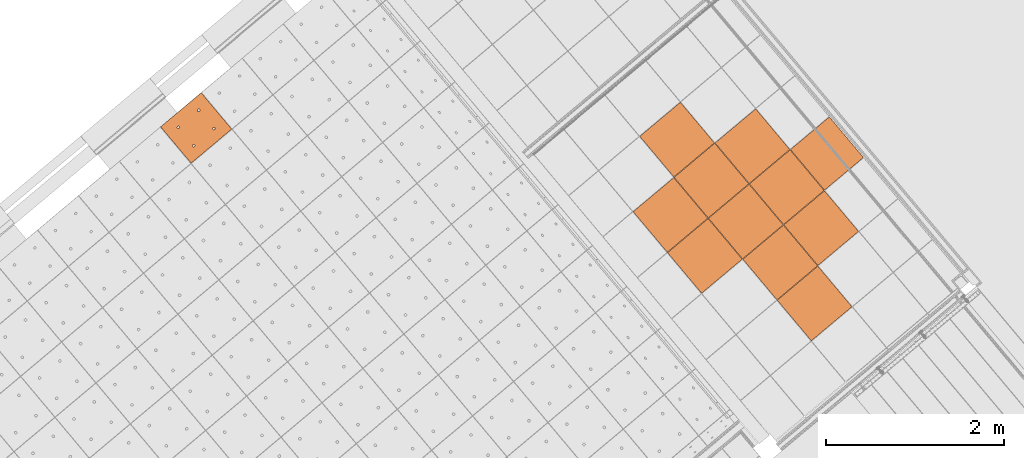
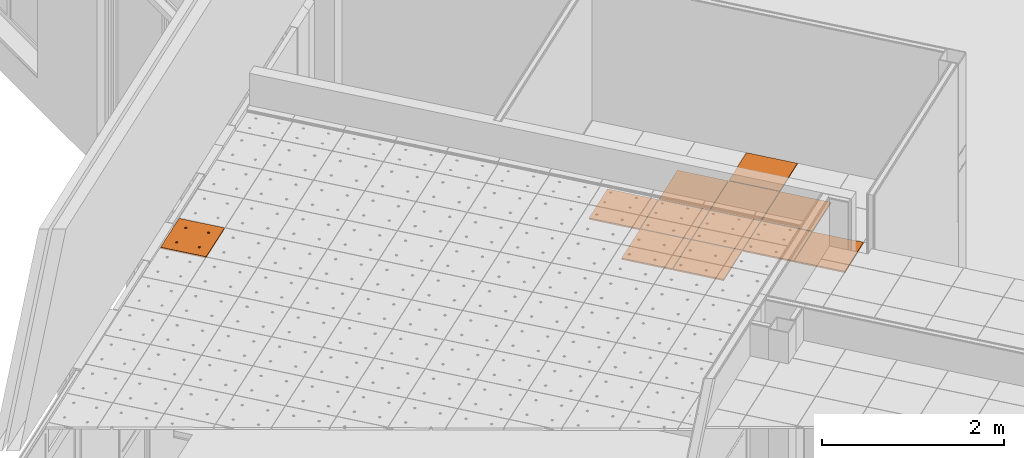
# One storey, part 175 of 338: 12 proxies, 2 elements without a shape of their own.
"""IFC2X3 building model written with IfcOpenShell, lengths in millimetres."""

from ifc_helpers import new_model, entity, si_unit, converted_unit, derived_unit, money_unit, direction, frame, origin_with_axes, place, context, subcontext, project, spatial, faceted_brep, source, transform, mapped, material, type_object, type_shapes, element, aggregate, save


model = new_model("IFC2X3")

# Units and contexts
model_context = context("Model", 3, precision=0.01, world=origin_with_axes(), true_north=direction((0.0, 1.0)))
plan_context = context("Plan", 3, precision=0.01, world=origin_with_axes(), true_north=direction((0.0, 1.0)))
body_context = subcontext(model_context, "Body", "Model", "MODEL_VIEW")
ifc_project = project(units=[si_unit("LENGTHUNIT", "METRE", prefix="MILLI"), si_unit("AREAUNIT", "SQUARE_METRE"), si_unit("VOLUMEUNIT", "CUBIC_METRE"), converted_unit("PLANEANGLEUNIT", "DEGREE", entity("IfcPlaneAngleMeasure", 0.0174532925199), si_unit("PLANEANGLEUNIT", "RADIAN"), dimensions=[0, 0, 0, 0, 0, 0, 0]), money_unit("EUR"), converted_unit("TIMEUNIT", "Year", entity("IfcTimeMeasure", 31556926.0), si_unit("TIMEUNIT", "SECOND"), dimensions=[0, 0, 1, 0, 0, 0, 0]), si_unit("MASSUNIT", "GRAM", prefix="KILO"), si_unit("THERMODYNAMICTEMPERATUREUNIT", "DEGREE_CELSIUS"), si_unit("LUMINOUSINTENSITYUNIT", "LUMEN"), si_unit("ENERGYUNIT", "JOULE", prefix="MEGA"), derived_unit("THERMALCONDUCTANCEUNIT", [(si_unit("POWERUNIT", "WATT"), 1), (si_unit("LENGTHUNIT", "METRE"), -1), (si_unit("THERMODYNAMICTEMPERATUREUNIT", "KELVIN"), -1)]), derived_unit("SPECIFICHEATCAPACITYUNIT", [(si_unit("ENERGYUNIT", "JOULE"), 1), (si_unit("MASSUNIT", "GRAM", prefix="KILO"), -1), (si_unit("THERMODYNAMICTEMPERATUREUNIT", "KELVIN"), -1)]), derived_unit("MASSDENSITYUNIT", [(si_unit("MASSUNIT", "GRAM", prefix="KILO"), 1), (si_unit("VOLUMEUNIT", "CUBIC_METRE"), -1)])], contexts=[model_context, plan_context])

# Site, building, storey
site_placement = place(None, origin_with_axes())
site = spatial("IfcSite", under=ifc_project, at=site_placement, Name="Fortuinstraat Woensdrecht", CompositionType="ELEMENT")
building_placement = place(site_placement, origin_with_axes())
building = spatial("IfcBuilding", under=site, at=building_placement, Name="IKC Fortuna", CompositionType="ELEMENT")
storey_placement = place(building_placement, origin_with_axes())
storey = spatial("IfcBuildingStorey", under=building, at=storey_placement, Name="00 begane grond", CompositionType="ELEMENT", Elevation=0.0)

# Covering, proxies
covering_type = type_object("IfcCoveringType", Name="Curtain Wall Type", PredefinedType="CEILING")
covering_1_placement = place(storey_placement, frame((15581.2998521, 5435.5548951, 3210.0), z_axis=(0.0, 0.0, 1.0), x_axis=(1.0, 0.0, 0.0)))
covering_1 = element("IfcCovering", 1, at=covering_1_placement, inside=storey, type_object=covering_type, Name="45_Plafondafwerking_P02 v", PredefinedType="CEILING")
ifc_material = material(Name="Gipsplaat")
building_element_proxy_type_1 = type_object("IfcBuildingElementProxyType", Name="Distinct Panel 600 x 600 x 20", PredefinedType="NOTDEFINED")
shared_shape_1 = source(origin_with_axes(), body_context, "Body", "Brep", [
    faceted_brep([(-597.499994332, 2.50000201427, -10.0), (-597.499994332, 2.50000201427, 10.0), (-597.499997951, 597.499994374, 10.0), (-597.499997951, 597.499994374, -10.0), (-2.50001005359, 2.49999600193, -10.0), (-2.50001005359, 2.49999600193, 10.0), (-2.49999596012, 597.499989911, 10.0), (-2.49999596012, 597.499989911, -10.0)], [[[0, 1, 2, 3]], [[4, 5, 1, 0]], [[1, 5, 6, 2]], [[3, 2, 6, 7]], [[0, 3, 7, 4]], [[7, 6, 5, 4]]]),
])
proxy_1_placement = place(covering_1_placement, frame((-299.144011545, 2098.72171471, 0.0), z_axis=(0.0, 0.0, 1.0), x_axis=(1.0, 0.0, 0.0)))
proxy_1 = element("IfcBuildingElementProxy", 2, at=proxy_1_placement, type_object=building_element_proxy_type_1, material=ifc_material, Name="__Panel-D", context=body_context, shape_type="MappedRepresentation", body=[
    mapped(shared_shape_1, transform((-422.649621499, 36.9769853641, 0.0), x_axis=(-0.766044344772, -0.642787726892, 0.0), y_axis=(0.642787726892, -0.766044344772, 0.0), z_axis=(0.0, 0.0, 1.0))),
])
proxy_2_placement = place(covering_1_placement, frame((472.201260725, 1179.46850099, 0.0), z_axis=(0.0, 0.0, 1.0), x_axis=(1.0, 0.0, 0.0)))
proxy_2 = element("IfcBuildingElementProxy", 3, at=proxy_2_placement, type_object=building_element_proxy_type_1, material=ifc_material, Name="__Panel-D", context=body_context, shape_type="MappedRepresentation", body=[
    mapped(shared_shape_1, transform((-422.649621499, 36.9769853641, 0.0), x_axis=(-0.766044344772, -0.642787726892, 0.0), y_axis=(0.642787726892, -0.766044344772, 0.0), z_axis=(0.0, 0.0, 1.0))),
])
proxy_3_placement = place(covering_1_placement, frame((1317.50050372, 1105.51453026, 0.0), z_axis=(0.0, 0.0, 1.0), x_axis=(1.0, 0.0, 0.0)))
proxy_3 = element("IfcBuildingElementProxy", 4, at=proxy_3_placement, type_object=building_element_proxy_type_1, material=ifc_material, Name="__Panel-D", context=body_context, shape_type="MappedRepresentation", body=[
    mapped(shared_shape_1, transform((-422.649621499, 36.9769853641, 0.0), x_axis=(-0.766044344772, -0.642787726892, 0.0), y_axis=(0.642787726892, -0.766044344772, 0.0), z_axis=(0.0, 0.0, 1.0))),
])
proxy_4_placement = place(covering_1_placement, frame((931.827867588, 1565.14113712, 0.0), z_axis=(0.0, 0.0, 1.0), x_axis=(1.0, 0.0, 0.0)))
proxy_4 = element("IfcBuildingElementProxy", 5, at=proxy_4_placement, type_object=building_element_proxy_type_1, material=ifc_material, Name="__Panel-D", context=body_context, shape_type="MappedRepresentation", body=[
    mapped(shared_shape_1, transform((-422.649621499, 36.9769853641, 0.0), x_axis=(-0.766044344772, -0.642787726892, 0.0), y_axis=(0.642787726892, -0.766044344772, 0.0), z_axis=(0.0, 0.0, 1.0))),
])
proxy_5_placement = place(covering_1_placement, frame((-373.097982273, 1253.42247171, 0.0), z_axis=(0.0, 0.0, 1.0), x_axis=(1.0, 0.0, 0.0)))
proxy_5 = element("IfcBuildingElementProxy", 6, at=proxy_5_placement, type_object=building_element_proxy_type_1, material=ifc_material, Name="__Panel-D", context=body_context, shape_type="MappedRepresentation", body=[
    mapped(shared_shape_1, transform((-422.649621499, 36.9769853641, 0.0), x_axis=(-0.766044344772, -0.642787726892, 0.0), y_axis=(0.642787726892, -0.766044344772, 0.0), z_axis=(0.0, 0.0, 1.0))),
])
proxy_6_placement = place(covering_1_placement, frame((12.5746538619, 793.795864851, 0.0), z_axis=(0.0, 0.0, 1.0), x_axis=(1.0, 0.0, 0.0)))
proxy_6 = element("IfcBuildingElementProxy", 7, at=proxy_6_placement, type_object=building_element_proxy_type_1, material=ifc_material, Name="__Panel-D", context=body_context, shape_type="MappedRepresentation", body=[
    mapped(shared_shape_1, transform((-422.649621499, 36.9769853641, 0.0), x_axis=(-0.766044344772, -0.642787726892, 0.0), y_axis=(0.642787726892, -0.766044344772, 0.0), z_axis=(0.0, 0.0, 1.0))),
])
proxy_7_placement = place(covering_1_placement, frame((1243.546533, 260.215287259, 0.0), z_axis=(0.0, 0.0, 1.0), x_axis=(1.0, 0.0, 0.0)))
proxy_7 = element("IfcBuildingElementProxy", 8, at=proxy_7_placement, type_object=building_element_proxy_type_1, material=ifc_material, Name="__Panel-D", context=body_context, shape_type="MappedRepresentation", body=[
    mapped(shared_shape_1, transform((-422.649621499, 36.9769853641, 0.0), x_axis=(-0.766044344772, -0.642787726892, 0.0), y_axis=(0.642787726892, -0.766044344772, 0.0), z_axis=(0.0, 0.0, 1.0))),
])
shared_shape_2 = source(origin_with_axes(), body_context, "Body", "Brep", [
    faceted_brep([(-597.500003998, 2.50001005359, -10.0), (-597.500003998, 2.50001005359, 10.0), (-597.499997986, 597.499994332, 10.0), (-597.499997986, 597.499994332, -10.0), (-2.50001008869, 2.4999959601, -10.0), (-2.50001008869, 2.4999959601, 10.0), (-2.50000562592, 597.499997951, 10.0), (-2.50000562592, 597.499997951, -10.0)], [[[0, 1, 2, 3]], [[4, 5, 1, 0]], [[1, 5, 6, 2]], [[3, 2, 6, 7]], [[0, 3, 7, 4]], [[7, 6, 5, 4]]]),
])
proxy_8_placement = place(covering_1_placement, frame((857.87389686, 719.841894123, 0.0), z_axis=(0.0, 0.0, 1.0), x_axis=(1.0, 0.0, 0.0)))
proxy_8 = element("IfcBuildingElementProxy", 9, at=proxy_8_placement, type_object=building_element_proxy_type_1, material=ifc_material, Name="__Panel-D", context=body_context, shape_type="MappedRepresentation", body=[
    mapped(shared_shape_2, transform((-422.649621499, 36.9769853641, 0.0), x_axis=(-0.766044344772, -0.642787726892, 0.0), y_axis=(0.642787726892, -0.766044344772, 0.0), z_axis=(0.0, 0.0, 1.0))),
])
proxy_9_placement = place(covering_1_placement, frame((546.155231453, 2024.76774398, 0.0), z_axis=(0.0, 0.0, 1.0), x_axis=(1.0, 0.0, 0.0)))
proxy_9 = element("IfcBuildingElementProxy", 10, at=proxy_9_placement, type_object=building_element_proxy_type_1, material=ifc_material, Name="__Panel-D", context=body_context, shape_type="MappedRepresentation", body=[
    mapped(shared_shape_2, transform((-422.649621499, 36.9769853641, 0.0), x_axis=(-0.766044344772, -0.642787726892, 0.0), y_axis=(0.642787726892, -0.766044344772, 0.0), z_axis=(0.0, 0.0, 1.0))),
])
building_element_proxy_type_2 = type_object("IfcBuildingElementProxyType", Name="Distinct Panel 575 x 600 x 20", PredefinedType="NOTDEFINED")
shared_shape_3 = source(origin_with_axes(), body_context, "Body", "Brep", [
    faceted_brep([(-572.749491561, 2.4999915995, -10.0), (-572.749491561, 2.4999915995, 10.0), (-572.749492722, 597.50000725, 10.0), (-572.749492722, 597.50000725, -10.0), (-2.49999882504, 2.49999206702, -10.0), (-2.49999882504, 2.49999206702, 10.0), (-2.49999998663, 597.500007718, 10.0), (-2.49999998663, 597.500007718, -10.0)], [[[0, 1, 2, 3]], [[4, 5, 1, 0]], [[1, 5, 6, 2]], [[3, 2, 6, 7]], [[0, 3, 7, 4]], [[7, 6, 5, 4]]]),
])
type_shapes(building_element_proxy_type_2, [shared_shape_3])
proxy_10_placement = place(covering_1_placement, frame((1381.9746472, 1942.85925123, 0.0), z_axis=(0.0, 0.0, 1.0), x_axis=(1.0, 0.0, 0.0)))
proxy_10 = element("IfcBuildingElementProxy", 11, at=proxy_10_placement, type_object=building_element_proxy_type_2, material=ifc_material, Name="__Panel-D", context=body_context, shape_type="MappedRepresentation", body=[
    mapped(shared_shape_3, transform((-413.169794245, 44.9315073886, 0.0), x_axis=(-0.766044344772, -0.642787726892, 0.0), y_axis=(0.642787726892, -0.766044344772, 0.0), z_axis=(0.0, 0.0, 1.0))),
])
shared_shape_4 = source(origin_with_axes(), body_context, "Body", "Brep", [
    faceted_brep([(-597.499994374, 2.50000204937, -10.0), (-597.499994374, 2.50000204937, 10.0), (-597.499989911, 597.50000404, 10.0), (-597.499989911, 597.50000404, -10.0), (-2.50000201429, 2.50000566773, -10.0), (-2.50000201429, 2.50000566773, 10.0), (-2.49999600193, 597.499989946, 10.0), (-2.49999600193, 597.499989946, -10.0)], [[[0, 1, 2, 3]], [[4, 5, 1, 0]], [[1, 5, 6, 2]], [[3, 2, 6, 7]], [[0, 3, 7, 4]], [[7, 6, 5, 4]]]),
])
type_shapes(building_element_proxy_type_1, [shared_shape_1, shared_shape_2, shared_shape_4])
proxy_11_placement = place(covering_1_placement, frame((86.5286245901, 1639.09510785, 0.0), z_axis=(0.0, 0.0, 1.0), x_axis=(1.0, 0.0, 0.0)))
proxy_11 = element("IfcBuildingElementProxy", 12, at=proxy_11_placement, type_object=building_element_proxy_type_1, material=ifc_material, Name="__Panel-D", context=body_context, shape_type="MappedRepresentation", body=[
    mapped(shared_shape_4, transform((-422.649621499, 36.9769853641, 0.0), x_axis=(-0.766044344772, -0.642787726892, 0.0), y_axis=(0.642787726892, -0.766044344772, 0.0), z_axis=(0.0, 0.0, 1.0))),
])
aggregate(covering_1, [proxy_8, proxy_1, proxy_9, proxy_11, proxy_2, proxy_3, proxy_4, proxy_5, proxy_10, proxy_6, proxy_7])

# Covering, proxy
covering_2_placement = place(storey_placement, frame((15863.124366, 4456.31398675, 4619.99995334), z_axis=(0.0, 0.0, 1.0), x_axis=(1.0, 0.0, 0.0)))
covering_2 = element("IfcCovering", 13, at=covering_2_placement, inside=storey, type_object=covering_type, Name="45_Plafondafwerking_P01", PredefinedType="CEILING")
building_element_proxy_type_3 = type_object("IfcBuildingElementProxyType", Name="Main Panel 600 x 538 x 20", PredefinedType="NOTDEFINED")
shared_shape_5 = source(origin_with_axes(), body_context, "Body", "Brep", [
    faceted_brep([(2.49999036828, 64.9082503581, -10.0), (300.000001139, 64.9082503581, -10.0), (300.000001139, 64.9082503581, 10.0), (2.49999036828, 64.9082503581, 10.0), (2.49999036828, 331.20412675, -10.0), (2.49999036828, 597.500003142, -10.0), (300.000001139, 597.500003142, -10.0), (597.50001191, 597.500003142, -10.0), (597.50001191, 331.20412675, -10.0), (597.50001191, 64.9082503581, -10.0), (166.249996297, 465.526747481, -10.0), (165.79422887, 467.840420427, -10.0), (164.896542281, 470.048101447, -10.0), (163.58421228, 472.082711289, -10.0), (161.897113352, 473.882429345, -10.0), (159.886507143, 475.392572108, -10.0), (157.613484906, 476.567254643, -10.0), (155.147111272, 477.370784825, -10.0), (152.562325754, 477.77874779, -10.0), (149.937665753, 477.77874779, -10.0), (147.352880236, 477.370784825, -10.0), (144.8865066, 476.567254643, -10.0), (142.613484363, 475.392572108, -10.0), (140.602878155, 473.882429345, -10.0), (138.915779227, 472.082711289, -10.0), (137.603449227, 470.048101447, -10.0), (136.705762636, 467.840420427, -10.0), (136.249995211, 465.526747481, -10.0), (136.249995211, 464.352064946, -10.0), (136.249995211, 463.177382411, -10.0), (136.705762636, 460.863709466, -10.0), (137.603449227, 458.656028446, -10.0), (138.915779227, 456.621418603, -10.0), (140.602878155, 454.821700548, -10.0), (142.613484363, 453.311557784, -10.0), (144.8865066, 452.13687525, -10.0), (147.352880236, 451.333345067, -10.0), (149.937665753, 450.925382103, -10.0), (152.562325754, 450.925382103, -10.0), (155.147111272, 451.333345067, -10.0), (157.613484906, 452.13687525, -10.0), (159.886507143, 453.311557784, -10.0), (161.897113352, 454.821700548, -10.0), (163.58421228, 456.621418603, -10.0), (164.896542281, 458.656028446, -10.0), (165.79422887, 460.863709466, -10.0), (166.249996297, 463.177382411, -10.0), (463.750007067, 465.526747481, -10.0), (463.294239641, 467.840420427, -10.0), (462.396553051, 470.048101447, -10.0), (461.084223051, 472.082711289, -10.0), (459.397124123, 473.882429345, -10.0), (457.386517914, 475.392572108, -10.0), (455.113495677, 476.567254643, -10.0), (452.647122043, 477.370784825, -10.0), (450.062336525, 477.77874779, -10.0), (447.437676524, 477.77874779, -10.0), (444.852891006, 477.370784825, -10.0), (442.386517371, 476.567254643, -10.0), (440.113495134, 475.392572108, -10.0), (438.102888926, 473.882429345, -10.0), (436.415789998, 472.082711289, -10.0), (435.103459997, 470.048101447, -10.0), (434.205773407, 467.840420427, -10.0), (433.750005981, 465.526747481, -10.0), (433.750005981, 464.352064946, -10.0), (433.750005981, 463.177382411, -10.0), (434.205773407, 460.863709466, -10.0), (435.103459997, 458.656028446, -10.0), (436.415789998, 456.621418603, -10.0), (438.102888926, 454.821700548, -10.0), (440.113495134, 453.311557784, -10.0), (442.386517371, 452.13687525, -10.0), (444.852891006, 451.333345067, -10.0), (447.437676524, 450.925382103, -10.0), (450.062336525, 450.925382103, -10.0), (452.647122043, 451.333345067, -10.0), (455.113495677, 452.13687525, -10.0), (457.386517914, 453.311557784, -10.0), (459.397124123, 454.821700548, -10.0), (461.084223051, 456.621418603, -10.0), (462.396553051, 458.656028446, -10.0), (463.294239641, 460.863709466, -10.0), (463.750007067, 463.177382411, -10.0), (463.750007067, 199.230871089, -10.0), (463.294239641, 201.544544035, -10.0), (462.396553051, 203.752225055, -10.0), (461.084223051, 205.786834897, -10.0), (459.397124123, 207.586552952, -10.0), (457.386517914, 209.096695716, -10.0), (455.113495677, 210.271378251, -10.0), (452.647122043, 211.074908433, -10.0), (450.062336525, 211.482871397, -10.0), (447.437676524, 211.482871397, -10.0), (444.852891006, 211.074908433, -10.0), (442.386517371, 210.271378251, -10.0), (440.113495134, 209.096695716, -10.0), (438.102888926, 207.586552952, -10.0), (436.415789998, 205.786834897, -10.0), (435.103459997, 203.752225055, -10.0), (434.205773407, 201.544544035, -10.0), (433.750005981, 199.230871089, -10.0), (433.750005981, 198.056188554, -10.0), (433.750005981, 196.881506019, -10.0), (434.205773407, 194.567833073, -10.0), (435.103459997, 192.360152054, -10.0), (436.415789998, 190.325542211, -10.0), (438.102888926, 188.525824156, -10.0), (440.113495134, 187.015681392, -10.0), (442.386517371, 185.840998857, -10.0), (444.852891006, 185.037468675, -10.0), (447.437676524, 184.629505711, -10.0), (450.062336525, 184.629505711, -10.0), (452.647122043, 185.037468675, -10.0), (455.113495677, 185.840998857, -10.0), (457.386517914, 187.015681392, -10.0), (459.397124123, 188.525824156, -10.0), (461.084223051, 190.325542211, -10.0), (462.396553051, 192.360152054, -10.0), (463.294239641, 194.567833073, -10.0), (463.750007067, 196.881506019, -10.0), (166.249996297, 199.230871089, -10.0), (165.79422887, 201.544544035, -10.0), (164.896542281, 203.752225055, -10.0), (163.58421228, 205.786834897, -10.0), (161.897113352, 207.586552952, -10.0), (159.886507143, 209.096695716, -10.0), (157.613484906, 210.271378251, -10.0), (155.147111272, 211.074908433, -10.0), (152.562325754, 211.482871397, -10.0), (149.937665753, 211.482871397, -10.0), (147.352880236, 211.074908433, -10.0), (144.8865066, 210.271378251, -10.0), (142.613484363, 209.096695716, -10.0), (140.602878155, 207.586552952, -10.0), (138.915779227, 205.786834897, -10.0), (137.603449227, 203.752225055, -10.0), (136.705762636, 201.544544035, -10.0), (136.249995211, 199.230871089, -10.0), (136.249995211, 198.056188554, -10.0), (136.249995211, 196.881506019, -10.0), (136.705762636, 194.567833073, -10.0), (137.603449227, 192.360152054, -10.0), (138.915779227, 190.325542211, -10.0), (140.602878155, 188.525824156, -10.0), (142.613484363, 187.015681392, -10.0), (144.8865066, 185.840998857, -10.0), (147.352880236, 185.037468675, -10.0), (149.937665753, 184.629505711, -10.0), (152.562325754, 184.629505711, -10.0), (155.147111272, 185.037468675, -10.0), (157.613484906, 185.840998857, -10.0), (159.886507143, 187.015681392, -10.0), (161.897113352, 188.525824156, -10.0), (163.58421228, 190.325542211, -10.0), (164.896542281, 192.360152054, -10.0), (165.79422887, 194.567833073, -10.0), (166.249996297, 196.881506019, -10.0), (597.50001191, 64.9082503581, 10.0), (597.50001191, 331.20412675, 10.0), (597.50001191, 597.500003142, 10.0), (300.000001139, 597.500003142, 10.0), (2.49999036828, 597.500003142, 10.0), (2.49999036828, 331.20412675, 10.0), (166.249996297, 465.526747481, 10.0), (166.249996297, 463.177382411, 10.0), (165.79422887, 460.863709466, 10.0), (164.896542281, 458.656028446, 10.0), (163.58421228, 456.621418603, 10.0), (161.897113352, 454.821700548, 10.0), (159.886507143, 453.311557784, 10.0), (157.613484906, 452.13687525, 10.0), (155.147111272, 451.333345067, 10.0), (152.562325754, 450.925382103, 10.0), (149.937665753, 450.925382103, 10.0), (147.352880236, 451.333345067, 10.0), (144.8865066, 452.13687525, 10.0), (142.613484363, 453.311557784, 10.0), (140.602878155, 454.821700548, 10.0), (138.915779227, 456.621418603, 10.0), (137.603449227, 458.656028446, 10.0), (136.705762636, 460.863709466, 10.0), (136.249995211, 463.177382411, 10.0), (136.249995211, 464.352064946, 10.0), (136.249995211, 465.526747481, 10.0), (136.705762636, 467.840420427, 10.0), (137.603449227, 470.048101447, 10.0), (138.915779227, 472.082711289, 10.0), (140.602878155, 473.882429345, 10.0), (142.613484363, 475.392572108, 10.0), (144.8865066, 476.567254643, 10.0), (147.352880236, 477.370784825, 10.0), (149.937665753, 477.77874779, 10.0), (152.562325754, 477.77874779, 10.0), (155.147111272, 477.370784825, 10.0), (157.613484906, 476.567254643, 10.0), (159.886507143, 475.392572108, 10.0), (161.897113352, 473.882429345, 10.0), (163.58421228, 472.082711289, 10.0), (164.896542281, 470.048101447, 10.0), (165.79422887, 467.840420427, 10.0), (463.750007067, 465.526747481, 10.0), (463.750007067, 463.177382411, 10.0), (463.294239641, 460.863709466, 10.0), (462.396553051, 458.656028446, 10.0), (461.084223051, 456.621418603, 10.0), (459.397124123, 454.821700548, 10.0), (457.386517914, 453.311557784, 10.0), (455.113495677, 452.13687525, 10.0), (452.647122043, 451.333345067, 10.0), (450.062336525, 450.925382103, 10.0), (447.437676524, 450.925382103, 10.0), (444.852891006, 451.333345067, 10.0), (442.386517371, 452.13687525, 10.0), (440.113495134, 453.311557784, 10.0), (438.102888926, 454.821700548, 10.0), (436.415789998, 456.621418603, 10.0), (435.103459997, 458.656028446, 10.0), (434.205773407, 460.863709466, 10.0), (433.750005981, 463.177382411, 10.0), (433.750005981, 464.352064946, 10.0), (433.750005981, 465.526747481, 10.0), (434.205773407, 467.840420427, 10.0), (435.103459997, 470.048101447, 10.0), (436.415789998, 472.082711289, 10.0), (438.102888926, 473.882429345, 10.0), (440.113495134, 475.392572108, 10.0), (442.386517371, 476.567254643, 10.0), (444.852891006, 477.370784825, 10.0), (447.437676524, 477.77874779, 10.0), (450.062336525, 477.77874779, 10.0), (452.647122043, 477.370784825, 10.0), (455.113495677, 476.567254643, 10.0), (457.386517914, 475.392572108, 10.0), (459.397124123, 473.882429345, 10.0), (461.084223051, 472.082711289, 10.0), (462.396553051, 470.048101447, 10.0), (463.294239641, 467.840420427, 10.0), (463.750007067, 199.230871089, 10.0), (463.750007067, 196.881506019, 10.0), (463.294239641, 194.567833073, 10.0), (462.396553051, 192.360152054, 10.0), (461.084223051, 190.325542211, 10.0), (459.397124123, 188.525824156, 10.0), (457.386517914, 187.015681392, 10.0), (455.113495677, 185.840998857, 10.0), (452.647122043, 185.037468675, 10.0), (450.062336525, 184.629505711, 10.0), (447.437676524, 184.629505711, 10.0), (444.852891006, 185.037468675, 10.0), (442.386517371, 185.840998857, 10.0), (440.113495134, 187.015681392, 10.0), (438.102888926, 188.525824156, 10.0), (436.415789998, 190.325542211, 10.0), (435.103459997, 192.360152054, 10.0), (434.205773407, 194.567833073, 10.0), (433.750005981, 196.881506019, 10.0), (433.750005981, 198.056188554, 10.0), (433.750005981, 199.230871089, 10.0), (434.205773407, 201.544544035, 10.0), (435.103459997, 203.752225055, 10.0), (436.415789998, 205.786834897, 10.0), (438.102888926, 207.586552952, 10.0), (440.113495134, 209.096695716, 10.0), (442.386517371, 210.271378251, 10.0), (444.852891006, 211.074908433, 10.0), (447.437676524, 211.482871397, 10.0), (450.062336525, 211.482871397, 10.0), (452.647122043, 211.074908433, 10.0), (455.113495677, 210.271378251, 10.0), (457.386517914, 209.096695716, 10.0), (459.397124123, 207.586552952, 10.0), (461.084223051, 205.786834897, 10.0), (462.396553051, 203.752225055, 10.0), (463.294239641, 201.544544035, 10.0), (166.249996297, 199.230871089, 10.0), (166.249996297, 196.881506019, 10.0), (165.79422887, 194.567833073, 10.0), (164.896542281, 192.360152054, 10.0), (163.58421228, 190.325542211, 10.0), (161.897113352, 188.525824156, 10.0), (159.886507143, 187.015681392, 10.0), (157.613484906, 185.840998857, 10.0), (155.147111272, 185.037468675, 10.0), (152.562325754, 184.629505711, 10.0), (149.937665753, 184.629505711, 10.0), (147.352880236, 185.037468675, 10.0), (144.8865066, 185.840998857, 10.0), (142.613484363, 187.015681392, 10.0), (140.602878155, 188.525824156, 10.0), (138.915779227, 190.325542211, 10.0), (137.603449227, 192.360152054, 10.0), (136.705762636, 194.567833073, 10.0), (136.249995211, 196.881506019, 10.0), (136.249995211, 198.056188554, 10.0), (136.249995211, 199.230871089, 10.0), (136.705762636, 201.544544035, 10.0), (137.603449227, 203.752225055, 10.0), (138.915779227, 205.786834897, 10.0), (140.602878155, 207.586552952, 10.0), (142.613484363, 209.096695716, 10.0), (144.8865066, 210.271378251, 10.0), (147.352880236, 211.074908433, 10.0), (149.937665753, 211.482871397, 10.0), (152.562325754, 211.482871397, 10.0), (155.147111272, 211.074908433, 10.0), (157.613484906, 210.271378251, 10.0), (159.886507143, 209.096695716, 10.0), (161.897113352, 207.586552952, 10.0), (163.58421228, 205.786834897, 10.0), (164.896542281, 203.752225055, 10.0), (165.79422887, 201.544544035, 10.0)], [[[0, 1, 2, 3]], [[0, 4, 5, 6, 7, 8, 9, 1], [10, 11, 12, 13, 14, 15, 16, 17, 18, 19, 20, 21, 22, 23, 24, 25, 26, 27, 28, 29, 30, 31, 32, 33, 34, 35, 36, 37, 38, 39, 40, 41, 42, 43, 44, 45, 46], [47, 48, 49, 50, 51, 52, 53, 54, 55, 56, 57, 58, 59, 60, 61, 62, 63, 64, 65, 66, 67, 68, 69, 70, 71, 72, 73, 74, 75, 76, 77, 78, 79, 80, 81, 82, 83], [84, 85, 86, 87, 88, 89, 90, 91, 92, 93, 94, 95, 96, 97, 98, 99, 100, 101, 102, 103, 104, 105, 106, 107, 108, 109, 110, 111, 112, 113, 114, 115, 116, 117, 118, 119, 120], [121, 122, 123, 124, 125, 126, 127, 128, 129, 130, 131, 132, 133, 134, 135, 136, 137, 138, 139, 140, 141, 142, 143, 144, 145, 146, 147, 148, 149, 150, 151, 152, 153, 154, 155, 156, 157]], [[1, 9, 158, 2]], [[3, 2, 158, 159, 160, 161, 162, 163], [164, 165, 166, 167, 168, 169, 170, 171, 172, 173, 174, 175, 176, 177, 178, 179, 180, 181, 182, 183, 184, 185, 186, 187, 188, 189, 190, 191, 192, 193, 194, 195, 196, 197, 198, 199, 200], [201, 202, 203, 204, 205, 206, 207, 208, 209, 210, 211, 212, 213, 214, 215, 216, 217, 218, 219, 220, 221, 222, 223, 224, 225, 226, 227, 228, 229, 230, 231, 232, 233, 234, 235, 236, 237], [238, 239, 240, 241, 242, 243, 244, 245, 246, 247, 248, 249, 250, 251, 252, 253, 254, 255, 256, 257, 258, 259, 260, 261, 262, 263, 264, 265, 266, 267, 268, 269, 270, 271, 272, 273, 274], [275, 276, 277, 278, 279, 280, 281, 282, 283, 284, 285, 286, 287, 288, 289, 290, 291, 292, 293, 294, 295, 296, 297, 298, 299, 300, 301, 302, 303, 304, 305, 306, 307, 308, 309, 310, 311]], [[4, 0, 3, 163]], [[5, 4, 163, 162]], [[6, 5, 162, 161]], [[7, 6, 161, 160]], [[8, 7, 160, 159]], [[9, 8, 159, 158]], [[11, 10, 164, 200]], [[12, 11, 200, 199]], [[13, 12, 199, 198]], [[14, 13, 198, 197]], [[15, 14, 197, 196]], [[16, 15, 196, 195]], [[17, 16, 195, 194]], [[18, 17, 194, 193]], [[19, 18, 193, 192]], [[20, 19, 192, 191]], [[21, 20, 191, 190]], [[22, 21, 190, 189]], [[23, 22, 189, 188]], [[24, 23, 188, 187]], [[25, 24, 187, 186]], [[26, 25, 186, 185]], [[27, 26, 185, 184]], [[28, 27, 184, 183]], [[29, 28, 183, 182]], [[30, 29, 182, 181]], [[31, 30, 181, 180]], [[32, 31, 180, 179]], [[33, 32, 179, 178]], [[34, 33, 178, 177]], [[35, 34, 177, 176]], [[36, 35, 176, 175]], [[37, 36, 175, 174]], [[38, 37, 174, 173]], [[39, 38, 173, 172]], [[40, 39, 172, 171]], [[41, 40, 171, 170]], [[42, 41, 170, 169]], [[43, 42, 169, 168]], [[44, 43, 168, 167]], [[45, 44, 167, 166]], [[46, 45, 166, 165]], [[10, 46, 165, 164]], [[48, 47, 201, 237]], [[49, 48, 237, 236]], [[50, 49, 236, 235]], [[51, 50, 235, 234]], [[52, 51, 234, 233]], [[53, 52, 233, 232]], [[54, 53, 232, 231]], [[55, 54, 231, 230]], [[56, 55, 230, 229]], [[57, 56, 229, 228]], [[58, 57, 228, 227]], [[59, 58, 227, 226]], [[60, 59, 226, 225]], [[61, 60, 225, 224]], [[62, 61, 224, 223]], [[63, 62, 223, 222]], [[64, 63, 222, 221]], [[65, 64, 221, 220]], [[66, 65, 220, 219]], [[67, 66, 219, 218]], [[68, 67, 218, 217]], [[69, 68, 217, 216]], [[70, 69, 216, 215]], [[71, 70, 215, 214]], [[72, 71, 214, 213]], [[73, 72, 213, 212]], [[74, 73, 212, 211]], [[75, 74, 211, 210]], [[76, 75, 210, 209]], [[77, 76, 209, 208]], [[78, 77, 208, 207]], [[79, 78, 207, 206]], [[80, 79, 206, 205]], [[81, 80, 205, 204]], [[82, 81, 204, 203]], [[83, 82, 203, 202]], [[47, 83, 202, 201]], [[85, 84, 238, 274]], [[86, 85, 274, 273]], [[87, 86, 273, 272]], [[88, 87, 272, 271]], [[89, 88, 271, 270]], [[90, 89, 270, 269]], [[91, 90, 269, 268]], [[92, 91, 268, 267]], [[93, 92, 267, 266]], [[94, 93, 266, 265]], [[95, 94, 265, 264]], [[96, 95, 264, 263]], [[97, 96, 263, 262]], [[98, 97, 262, 261]], [[99, 98, 261, 260]], [[100, 99, 260, 259]], [[101, 100, 259, 258]], [[102, 101, 258, 257]], [[103, 102, 257, 256]], [[104, 103, 256, 255]], [[105, 104, 255, 254]], [[106, 105, 254, 253]], [[107, 106, 253, 252]], [[108, 107, 252, 251]], [[109, 108, 251, 250]], [[110, 109, 250, 249]], [[111, 110, 249, 248]], [[112, 111, 248, 247]], [[113, 112, 247, 246]], [[114, 113, 246, 245]], [[115, 114, 245, 244]], [[116, 115, 244, 243]], [[117, 116, 243, 242]], [[118, 117, 242, 241]], [[119, 118, 241, 240]], [[120, 119, 240, 239]], [[84, 120, 239, 238]], [[122, 121, 275, 311]], [[123, 122, 311, 310]], [[124, 123, 310, 309]], [[125, 124, 309, 308]], [[126, 125, 308, 307]], [[127, 126, 307, 306]], [[128, 127, 306, 305]], [[129, 128, 305, 304]], [[130, 129, 304, 303]], [[131, 130, 303, 302]], [[132, 131, 302, 301]], [[133, 132, 301, 300]], [[134, 133, 300, 299]], [[135, 134, 299, 298]], [[136, 135, 298, 297]], [[137, 136, 297, 296]], [[138, 137, 296, 295]], [[139, 138, 295, 294]], [[140, 139, 294, 293]], [[141, 140, 293, 292]], [[142, 141, 292, 291]], [[143, 142, 291, 290]], [[144, 143, 290, 289]], [[145, 144, 289, 288]], [[146, 145, 288, 287]], [[147, 146, 287, 286]], [[148, 147, 286, 285]], [[149, 148, 285, 284]], [[150, 149, 284, 283]], [[151, 150, 283, 282]], [[152, 151, 282, 281]], [[153, 152, 281, 280]], [[154, 153, 280, 279]], [[155, 154, 279, 278]], [[156, 155, 278, 277]], [[157, 156, 277, 276]], [[121, 157, 276, 275]]]),
])
type_shapes(building_element_proxy_type_3, [shared_shape_5])
proxy_12_placement = place(covering_2_placement, frame((-5977.49566161, 3208.46976458, 13.5167748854), z_axis=(0.0, 0.0, 1.0), x_axis=(0.642787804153, -0.766044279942, 0.0)))
proxy_12 = element("IfcBuildingElementProxy", 14, at=proxy_12_placement, type_object=building_element_proxy_type_3, material=ifc_material, Name="__600x935 Rockfon Krios", context=body_context, shape_type="MappedRepresentation", body=[
    mapped(shared_shape_5, transform((-331.204195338, 299.995617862, -1.62150043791), x_axis=(0.0, -0.999985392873, 0.00540500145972), y_axis=(1.0, 0.0, 0.0), z_axis=(0.0, 0.00540500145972, 0.999985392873))),
])
aggregate(covering_2, [proxy_12])

save(model, "model.ifc")
